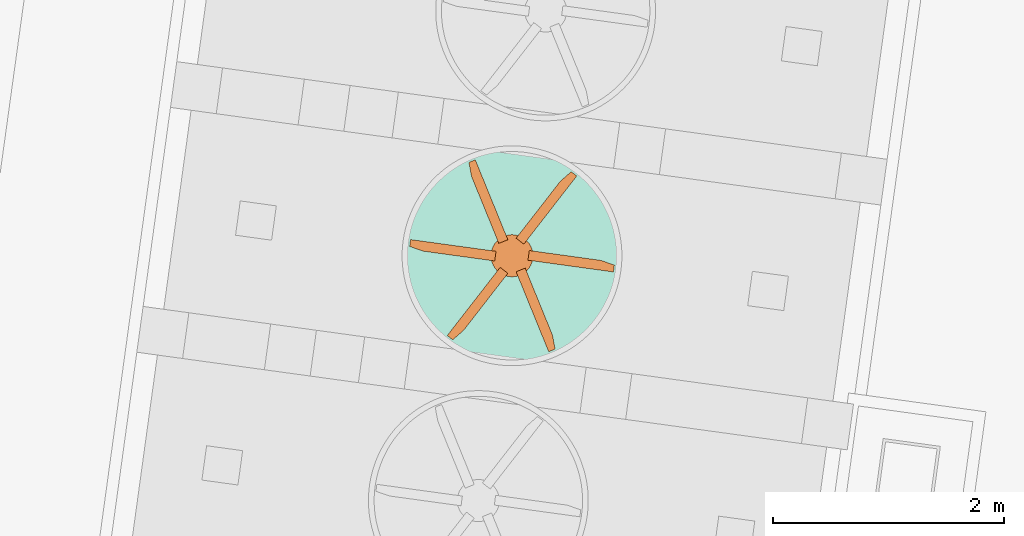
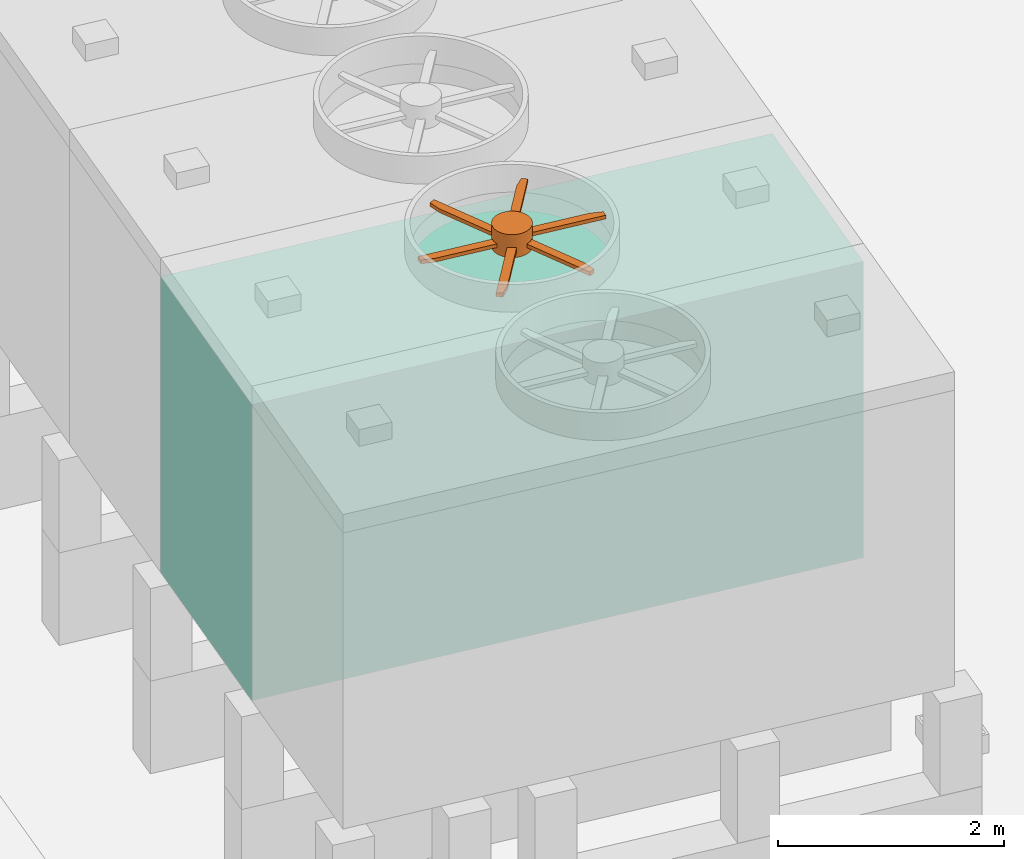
# Not in any storey, part 40 of 75: 7 proxies, plus 1 element that does not belong to this part.
"""IFC4 model written with IfcOpenShell, lengths in metres."""

from ifc_helpers import new_model, si_unit, direction, origin_with_axes, place, context, subcontext, project, spatial, triangles, element, aggregate, save


model = new_model("IFC4")

# Units and contexts
model_context = context("Model", 3, precision=1e-05, world=origin_with_axes(), true_north=direction((0.0, 1.0)))
body_context = subcontext(model_context, "Body", "Model", "MODEL_VIEW")
ifc_project = project(units=[si_unit("AREAUNIT", "SQUARE_METRE"), si_unit("VOLUMEUNIT", "CUBIC_METRE"), si_unit("LENGTHUNIT", "METRE")], contexts=[model_context])

# Site
site_placement = place(None, origin_with_axes())
site = spatial("IfcSite", under=ifc_project, at=site_placement, Name="Parcela industrial Jinhong")

# Cooling tower, proxies
cooling_tower_placement = place(site_placement, origin_with_axes())
cooling_tower = element("IfcCoolingTower", 1, at=cooling_tower_placement, inside=site, Name="Torre de refrigeración WT3001C · Envolvente del cuerpo de la torre", ObjectType="Envolvente de equipo", PredefinedType="USERDEFINED", context=body_context, shape_type="Tessellation", body=[
    triangles([(41.948887, 44.224235, 6.3), (36.44488, 47.141085, 6.3), (36.153404, 45.021028, 6.3), (36.44488, 47.141085, 3.1), (41.948887, 44.224235, 3.1), (36.153404, 45.021028, 3.1), (42.240363, 46.344292, 6.3), (42.240363, 46.344292, 3.1)], [[1, 2, 3], [4, 5, 6], [1, 7, 2], [5, 4, 8], [5, 8, 7], [5, 7, 1], [8, 4, 2], [7, 8, 2], [3, 4, 6], [4, 3, 2], [6, 5, 1], [3, 6, 1]], closed=True),
])
proxy_1_placement = place(cooling_tower_placement, origin_with_axes())
proxy_1 = element("IfcBuildingElementProxy", 2, at=proxy_1_placement, Name="Torre de refrigeración WT3001C · Pala de ventilador 1 · contorno CAD", context=body_context, shape_type="Tessellation", body=[
    triangles([(38.879202, 46.514031, 6.66), (39.082575, 45.789658, 6.66), (39.16132, 45.821748, 6.66), (38.879202, 46.514031, 6.62), (39.16132, 45.821748, 6.62), (39.082575, 45.789658, 6.62), (38.82313, 46.490378, 6.66), (38.850964, 46.502684, 6.66), (38.850964, 46.502684, 6.62), (38.82313, 46.490378, 6.62), (38.846948, 46.367861, 6.66), (38.846948, 46.367861, 6.62)], [[1, 2, 3], [4, 5, 6], [8, 7, 1], [9, 4, 10], [11, 2, 7], [10, 6, 12], [2, 1, 7], [6, 10, 4], [8, 4, 9], [8, 1, 4], [7, 9, 10], [7, 8, 9], [11, 10, 12], [10, 11, 7], [6, 2, 12], [12, 2, 11], [6, 5, 3], [6, 3, 2], [4, 1, 5], [1, 3, 5]], closed=True),
])
proxy_2_placement = place(cooling_tower_placement, origin_with_axes())
proxy_2 = element("IfcBuildingElementProxy", 3, at=proxy_2_placement, Name="Torre de refrigeración WT3001C · Pala de ventilador 2 · contorno CAD", context=body_context, shape_type="Tessellation", body=[
    triangles([(39.311192, 45.575661, 6.66), (39.232447, 45.543571, 6.66), (39.514564, 44.851288, 6.66), (39.232447, 45.543571, 6.62), (39.311192, 45.575661, 6.62), (39.514564, 44.851288, 6.62), (39.570636, 44.874942, 6.66), (39.542803, 44.862636, 6.66), (39.542803, 44.862636, 6.62), (39.570636, 44.874942, 6.62), (39.54682, 44.997458, 6.66), (39.54682, 44.997458, 6.62)], [[1, 2, 3], [4, 5, 6], [8, 7, 3], [9, 6, 10], [11, 1, 7], [10, 5, 12], [1, 3, 7], [5, 10, 6], [8, 6, 9], [8, 3, 6], [7, 9, 10], [7, 8, 9], [11, 10, 12], [10, 11, 7], [5, 1, 12], [12, 1, 11], [5, 4, 2], [5, 2, 1], [3, 4, 6], [4, 3, 2]], closed=True),
])
proxy_3_placement = place(cooling_tower_placement, origin_with_axes())
proxy_3 = element("IfcBuildingElementProxy", 4, at=proxy_3_placement, Name="Torre de refrigeración WT3001C · Pala de ventilador 3 · contorno CAD", context=body_context, shape_type="Tessellation", body=[
    triangles([(39.161374, 45.530166, 6.66), (39.094211, 45.582317, 6.66), (38.635735, 44.991854, 6.66), (39.094211, 45.582317, 6.62), (39.161374, 45.530166, 6.62), (38.635735, 44.991854, 6.62), (38.684256, 44.955121, 6.66), (38.659681, 44.973073, 6.66), (38.659681, 44.973073, 6.62), (38.684256, 44.955121, 6.62), (38.77845, 45.037006, 6.66), (38.77845, 45.037006, 6.62)], [[1, 2, 3], [4, 5, 6], [8, 7, 3], [9, 6, 10], [11, 1, 7], [10, 5, 12], [1, 3, 7], [5, 10, 6], [8, 6, 9], [8, 3, 6], [7, 9, 10], [7, 8, 9], [11, 10, 12], [10, 11, 7], [5, 1, 12], [12, 1, 11], [5, 4, 2], [5, 2, 1], [3, 4, 6], [4, 3, 2]], closed=True),
])
proxy_4_placement = place(cooling_tower_placement, origin_with_axes())
proxy_4 = element("IfcBuildingElementProxy", 5, at=proxy_4_placement, Name="Torre de refrigeración WT3001C · Pala de ventilador 4 · contorno CAD", context=body_context, shape_type="Tessellation", body=[
    triangles([(39.758031, 46.373466, 6.66), (39.232393, 45.835153, 6.66), (39.299556, 45.783003, 6.66), (39.758031, 46.373466, 6.62), (39.299556, 45.783003, 6.62), (39.232393, 45.835153, 6.62), (39.709511, 46.410198, 6.66), (39.734086, 46.392247, 6.66), (39.734086, 46.392247, 6.62), (39.709511, 46.410198, 6.62), (39.615317, 46.328314, 6.66), (39.615317, 46.328314, 6.62)], [[1, 2, 3], [4, 5, 6], [8, 7, 1], [9, 4, 10], [11, 2, 7], [10, 6, 12], [2, 1, 7], [6, 10, 4], [8, 4, 9], [8, 1, 4], [7, 9, 10], [7, 8, 9], [11, 10, 12], [10, 11, 7], [6, 2, 12], [12, 2, 11], [6, 5, 3], [6, 3, 2], [4, 1, 5], [1, 3, 5]], closed=True),
])
proxy_5_placement = place(cooling_tower_placement, origin_with_axes())
proxy_5 = element("IfcBuildingElementProxy", 6, at=proxy_5_placement, Name="Torre de refrigeración WT3001C · Pala de ventilador 5 · contorno CAD", context=body_context, shape_type="Tessellation", body=[
    triangles([(40.075713, 45.542094, 6.66), (39.346701, 45.728155, 6.66), (39.335119, 45.643914, 6.66), (39.346701, 45.728155, 6.62), (40.075713, 45.542094, 6.62), (39.335119, 45.643914, 6.62), (40.083264, 45.602481, 6.66), (40.080005, 45.572223, 6.66), (40.080005, 45.572223, 6.62), (40.083264, 45.602481, 6.62), (39.965253, 45.643113, 6.66), (39.965253, 45.643113, 6.62)], [[1, 2, 3], [4, 5, 6], [8, 7, 1], [9, 5, 10], [11, 2, 7], [10, 4, 12], [7, 2, 1], [5, 4, 10], [5, 9, 8], [5, 8, 1], [7, 9, 10], [7, 8, 9], [11, 10, 12], [10, 11, 7], [12, 4, 2], [11, 12, 2], [3, 4, 6], [4, 3, 2], [6, 5, 1], [3, 6, 1]], closed=True),
])
proxy_6_placement = place(cooling_tower_placement, origin_with_axes())
proxy_6 = element("IfcBuildingElementProxy", 7, at=proxy_6_placement, Name="Torre de refrigeración WT3001C · Pala de ventilador 6 · contorno CAD", context=body_context, shape_type="Tessellation", body=[
    triangles([(39.058647, 45.721405, 6.66), (38.318054, 45.823226, 6.66), (39.047066, 45.637165, 6.66), (38.318054, 45.823226, 6.62), (39.058647, 45.721405, 6.62), (39.047066, 45.637165, 6.62), (38.310503, 45.762839, 6.66), (38.313762, 45.793097, 6.66), (38.313762, 45.793097, 6.62), (38.310503, 45.762839, 6.62), (38.428514, 45.722207, 6.66), (38.428514, 45.722207, 6.62)], [[1, 2, 3], [4, 5, 6], [8, 7, 2], [9, 4, 10], [11, 3, 7], [10, 6, 12], [7, 3, 2], [10, 4, 6], [4, 9, 8], [4, 8, 2], [7, 9, 10], [7, 8, 9], [11, 10, 12], [10, 11, 7], [12, 6, 3], [11, 12, 3], [5, 1, 6], [1, 3, 6], [5, 4, 2], [5, 2, 1]], closed=True),
])
proxy_7_placement = place(cooling_tower_placement, origin_with_axes())
proxy_7 = element("IfcBuildingElementProxy", 8, at=proxy_7_placement, Name="Torre de refrigeración WT3001C · Envolvente del buje del ventilador", context=body_context, shape_type="Tessellation", body=[
    triangles([(39.377381, 45.657844, 6.8), (39.374079, 45.640272, 6.8), (39.375946, 45.649017, 6.8), (39.374079, 45.640272, 6.55), (39.377381, 45.657844, 6.55), (39.375946, 45.649017, 6.55), (39.378944, 45.675655, 6.8), (39.378381, 45.666731, 6.8), (39.378381, 45.666731, 6.55), (39.378944, 45.675655, 6.55), (39.378754, 45.693534, 6.8), (39.379068, 45.684597, 6.8), (39.379068, 45.684597, 6.55), (39.378754, 45.693534, 6.55), (39.376812, 45.711308, 6.8), (39.378001, 45.702445, 6.8), (39.378001, 45.702445, 6.55), (39.376812, 45.711308, 6.55), (39.373138, 45.728806, 6.8), (39.37519, 45.720102, 6.8), (39.37519, 45.720102, 6.55), (39.373138, 45.728806, 6.55), (39.367766, 45.74586, 6.8), (39.370661, 45.737399, 6.8), (39.370661, 45.737399, 6.55), (39.367766, 45.74586, 6.55), (39.360748, 45.762305, 6.8), (39.364459, 45.754169, 6.8), (39.364459, 45.754169, 6.55), (39.360748, 45.762305, 6.55), (39.352153, 45.777983, 6.8), (39.356643, 45.77025, 6.8), (39.356643, 45.77025, 6.55), (39.352153, 45.777983, 6.55), (39.342062, 45.792743, 6.8), (39.347288, 45.785487, 6.8), (39.347288, 45.785487, 6.55), (39.342062, 45.792743, 6.55), (39.330573, 45.806443, 6.8), (39.336485, 45.799734, 6.8), (39.336485, 45.799734, 6.55), (39.330573, 45.806443, 6.55), (39.317796, 45.818951, 6.8), (39.324338, 45.812854, 6.8), (39.324338, 45.812854, 6.55), (39.317796, 45.818951, 6.55), (39.303855, 45.830146, 6.8), (39.310963, 45.82472, 6.8), (39.310963, 45.82472, 6.55), (39.303855, 45.830146, 6.55), (39.288884, 45.839921, 6.8), (39.296489, 45.835217, 6.8), (39.296489, 45.835217, 6.55), (39.288884, 45.839921, 6.55), (39.273026, 45.848181, 6.8), (39.281056, 45.844246, 6.8), (39.281056, 45.844246, 6.55), (39.273026, 45.848181, 6.55), (39.256436, 45.854848, 6.8), (39.264813, 45.851718, 6.8), (39.264813, 45.851718, 6.55), (39.256436, 45.854848, 6.55), (39.239272, 45.859856, 6.8), (39.247915, 45.857562, 6.8), (39.247915, 45.857562, 6.55), (39.239272, 45.859856, 6.55), (39.221699, 45.863157, 6.8), (39.230526, 45.861722, 6.8), (39.230526, 45.861722, 6.55), (39.221699, 45.863157, 6.55), (39.203888, 45.86472, 6.8), (39.212813, 45.864157, 6.8), (39.212813, 45.864157, 6.55), (39.203888, 45.86472, 6.55), (39.194946, 45.864845, 6.8), (39.186009, 45.86453, 6.8), (39.186009, 45.86453, 6.55), (39.194946, 45.864845, 6.55), (39.168235, 45.862589, 6.8), (39.177098, 45.863777, 6.8), (39.177098, 45.863777, 6.55), (39.168235, 45.862589, 6.55), (39.150737, 45.858914, 6.8), (39.159441, 45.860966, 6.8), (39.159441, 45.860966, 6.55), (39.150737, 45.858914, 6.55), (39.133683, 45.853542, 6.8), (39.142144, 45.856437, 6.8), (39.142144, 45.856437, 6.55), (39.133683, 45.853542, 6.55), (39.117238, 45.846525, 6.8), (39.125375, 45.850235, 6.8), (39.125375, 45.850235, 6.55), (39.117238, 45.846525, 6.55), (39.10156, 45.837929, 6.8), (39.109294, 45.842419, 6.8), (39.109294, 45.842419, 6.55), (39.10156, 45.837929, 6.55), (39.0868, 45.827838, 6.8), (39.094056, 45.833065, 6.8), (39.094056, 45.833065, 6.55), (39.0868, 45.827838, 6.55), (39.0731, 45.816349, 6.8), (39.079809, 45.822262, 6.8), (39.079809, 45.822262, 6.55), (39.0731, 45.816349, 6.55), (39.060592, 45.803572, 6.8), (39.066689, 45.810114, 6.8), (39.066689, 45.810114, 6.55), (39.060592, 45.803572, 6.55), (39.049397, 45.789631, 6.8), (39.054824, 45.796739, 6.8), (39.054824, 45.796739, 6.55), (39.049397, 45.789631, 6.55), (39.039622, 45.77466, 6.8), (39.044326, 45.782265, 6.8), (39.044326, 45.782265, 6.55), (39.039622, 45.77466, 6.55), (39.031362, 45.758803, 6.8), (39.035298, 45.766833, 6.8), (39.035298, 45.766833, 6.55), (39.031362, 45.758803, 6.55), (39.024696, 45.742212, 6.8), (39.027825, 45.750589, 6.8), (39.027825, 45.750589, 6.55), (39.024696, 45.742212, 6.55), (39.019688, 45.725048, 6.8), (39.021981, 45.733691, 6.8), (39.021981, 45.733691, 6.55), (39.019688, 45.725048, 6.55), (39.016386, 45.707475, 6.8), (39.017821, 45.716302, 6.8), (39.017821, 45.716302, 6.55), (39.016386, 45.707475, 6.55), (39.014823, 45.689664, 6.8), (39.015386, 45.698589, 6.8), (39.015386, 45.698589, 6.55), (39.014823, 45.689664, 6.55), (39.015013, 45.671785, 6.8), (39.014699, 45.680722, 6.8), (39.014699, 45.680722, 6.55), (39.015013, 45.671785, 6.55), (39.016955, 45.654011, 6.8), (39.015766, 45.662875, 6.8), (39.015766, 45.662875, 6.55), (39.016955, 45.654011, 6.55), (39.020629, 45.636513, 6.8), (39.018577, 45.645217, 6.8), (39.018577, 45.645217, 6.55), (39.020629, 45.636513, 6.55), (39.026001, 45.619459, 6.8), (39.023106, 45.62792, 6.8), (39.023106, 45.62792, 6.55), (39.026001, 45.619459, 6.55), (39.033019, 45.603014, 6.8), (39.029308, 45.611151, 6.8), (39.029308, 45.611151, 6.55), (39.033019, 45.603014, 6.55), (39.041614, 45.587336, 6.8), (39.037124, 45.59507, 6.8), (39.037124, 45.59507, 6.55), (39.041614, 45.587336, 6.55), (39.051705, 45.572576, 6.8), (39.046479, 45.579832, 6.8), (39.046479, 45.579832, 6.55), (39.051705, 45.572576, 6.55), (39.063195, 45.558876, 6.8), (39.057282, 45.565585, 6.8), (39.057282, 45.565585, 6.55), (39.063195, 45.558876, 6.55), (39.075971, 45.546369, 6.8), (39.069429, 45.552466, 6.8), (39.069429, 45.552466, 6.55), (39.075971, 45.546369, 6.55), (39.089912, 45.535173, 6.8), (39.082804, 45.5406, 6.8), (39.082804, 45.5406, 6.55), (39.089912, 45.535173, 6.55), (39.104884, 45.525399, 6.8), (39.097278, 45.530102, 6.8), (39.097278, 45.530102, 6.55), (39.104884, 45.525399, 6.55), (39.120741, 45.517138, 6.8), (39.112711, 45.521074, 6.8), (39.112711, 45.521074, 6.55), (39.120741, 45.517138, 6.55), (39.137331, 45.510472, 6.8), (39.128954, 45.513602, 6.8), (39.128954, 45.513602, 6.55), (39.137331, 45.510472, 6.55), (39.154496, 45.505464, 6.8), (39.145852, 45.507757, 6.8), (39.145852, 45.507757, 6.55), (39.154496, 45.505464, 6.55), (39.172068, 45.502163, 6.8), (39.163241, 45.503598, 6.8), (39.163241, 45.503598, 6.55), (39.172068, 45.502163, 6.55), (39.189879, 45.500599, 6.8), (39.180954, 45.501162, 6.8), (39.180954, 45.501162, 6.55), (39.189879, 45.500599, 6.55), (39.207758, 45.500789, 6.8), (39.198821, 45.500475, 6.8), (39.198821, 45.500475, 6.55), (39.207758, 45.500789, 6.55), (39.225532, 45.502731, 6.8), (39.216669, 45.501542, 6.8), (39.216669, 45.501542, 6.55), (39.225532, 45.502731, 6.55), (39.24303, 45.506405, 6.8), (39.234326, 45.504353, 6.8), (39.234326, 45.504353, 6.55), (39.24303, 45.506405, 6.55), (39.260084, 45.511777, 6.8), (39.251623, 45.508882, 6.8), (39.251623, 45.508882, 6.55), (39.260084, 45.511777, 6.55), (39.276529, 45.518795, 6.8), (39.268393, 45.515084, 6.8), (39.268393, 45.515084, 6.55), (39.276529, 45.518795, 6.55), (39.292207, 45.527391, 6.8), (39.284473, 45.5229, 6.8), (39.284473, 45.5229, 6.55), (39.292207, 45.527391, 6.55), (39.306967, 45.537482, 6.8), (39.299711, 45.532255, 6.8), (39.299711, 45.532255, 6.55), (39.306967, 45.537482, 6.55), (39.320667, 45.548971, 6.8), (39.313958, 45.543058, 6.8), (39.313958, 45.543058, 6.55), (39.320667, 45.548971, 6.55), (39.333175, 45.561747, 6.8), (39.327078, 45.555206, 6.8), (39.327078, 45.555206, 6.55), (39.333175, 45.561747, 6.55), (39.34437, 45.575688, 6.8), (39.338943, 45.568581, 6.8), (39.338943, 45.568581, 6.55), (39.34437, 45.575688, 6.55), (39.354145, 45.59066, 6.8), (39.349441, 45.583054, 6.8), (39.349441, 45.583054, 6.55), (39.354145, 45.59066, 6.55), (39.362405, 45.606517, 6.8), (39.35847, 45.598487, 6.8), (39.35847, 45.598487, 6.55), (39.362405, 45.606517, 6.55), (39.369071, 45.623108, 6.8), (39.365942, 45.614731, 6.8), (39.365942, 45.614731, 6.55), (39.369071, 45.623108, 6.55), (39.371786, 45.631628, 6.8), (39.371786, 45.631628, 6.55)], [[1, 2, 3], [4, 5, 6], [8, 7, 1], [9, 5, 10], [12, 11, 7], [13, 10, 14], [16, 15, 11], [17, 14, 18], [20, 19, 15], [21, 18, 22], [24, 23, 19], [25, 22, 26], [28, 27, 23], [29, 26, 30], [32, 31, 27], [33, 30, 34], [36, 35, 31], [37, 34, 38], [40, 39, 35], [41, 38, 42], [44, 43, 39], [45, 42, 46], [48, 47, 43], [49, 46, 50], [52, 51, 47], [53, 50, 54], [56, 55, 51], [57, 54, 58], [60, 59, 55], [61, 58, 62], [64, 63, 59], [65, 62, 66], [68, 67, 63], [69, 66, 70], [72, 71, 67], [73, 70, 74], [71, 75, 76], [77, 78, 74], [80, 79, 76], [81, 77, 82], [84, 83, 79], [85, 82, 86], [88, 87, 83], [89, 86, 90], [92, 91, 87], [93, 90, 94], [96, 95, 91], [97, 94, 98], [100, 99, 95], [101, 98, 102], [104, 103, 99], [105, 102, 106], [108, 107, 103], [109, 106, 110], [112, 111, 107], [113, 110, 114], [116, 115, 111], [117, 114, 118], [120, 119, 115], [121, 118, 122], [124, 123, 119], [125, 122, 126], [128, 127, 123], [129, 126, 130], [132, 131, 127], [133, 130, 134], [136, 135, 131], [137, 134, 138], [140, 139, 135], [141, 138, 142], [144, 143, 139], [145, 142, 146], [148, 147, 143], [149, 146, 150], [152, 151, 147], [153, 150, 154], [156, 155, 151], [157, 154, 158], [160, 159, 155], [161, 158, 162], [164, 163, 159], [165, 162, 166], [168, 167, 163], [169, 166, 170], [172, 171, 167], [173, 170, 174], [176, 175, 171], [177, 174, 178], [180, 179, 175], [181, 178, 182], [184, 183, 179], [185, 182, 186], [188, 187, 183], [189, 186, 190], [192, 191, 187], [193, 190, 194], [196, 195, 191], [197, 194, 198], [200, 199, 195], [201, 198, 202], [204, 203, 199], [205, 202, 206], [208, 207, 203], [209, 206, 210], [212, 211, 207], [213, 210, 214], [216, 215, 211], [217, 214, 218], [220, 219, 215], [221, 218, 222], [224, 223, 219], [225, 222, 226], [228, 227, 223], [229, 226, 230], [232, 231, 227], [233, 230, 234], [236, 235, 231], [237, 234, 238], [240, 239, 235], [241, 238, 242], [244, 243, 239], [245, 242, 246], [248, 247, 243], [249, 246, 250], [252, 251, 247], [253, 250, 254], [255, 2, 251], [254, 4, 256], [7, 2, 1], [5, 4, 10], [11, 15, 7], [14, 10, 18], [19, 23, 15], [22, 18, 26], [27, 31, 23], [30, 26, 34], [35, 39, 31], [38, 34, 42], [43, 47, 39], [46, 42, 50], [51, 55, 47], [54, 50, 58], [59, 63, 55], [62, 58, 66], [67, 71, 63], [70, 66, 74], [71, 76, 79], [82, 77, 74], [83, 87, 79], [86, 82, 90], [91, 95, 87], [94, 90, 98], [99, 103, 95], [102, 98, 106], [107, 111, 103], [110, 106, 114], [115, 119, 111], [118, 114, 122], [123, 127, 119], [126, 122, 130], [131, 135, 127], [134, 130, 138], [139, 143, 135], [142, 138, 146], [147, 151, 143], [150, 146, 154], [155, 159, 151], [158, 154, 162], [163, 167, 159], [166, 162, 170], [171, 175, 167], [174, 170, 178], [179, 183, 175], [182, 178, 186], [187, 191, 183], [190, 186, 194], [195, 199, 191], [198, 194, 202], [203, 207, 199], [206, 202, 210], [211, 215, 207], [214, 210, 218], [219, 223, 215], [222, 218, 226], [227, 231, 223], [230, 226, 234], [235, 239, 231], [238, 234, 242], [243, 247, 239], [246, 242, 250], [251, 2, 247], [250, 4, 254], [7, 15, 2], [10, 4, 18], [23, 31, 15], [26, 18, 34], [39, 47, 31], [42, 34, 50], [55, 63, 47], [58, 50, 66], [63, 71, 79], [82, 74, 66], [87, 95, 79], [90, 82, 98], [103, 111, 95], [106, 98, 114], [119, 127, 111], [122, 114, 130], [135, 143, 127], [138, 130, 146], [151, 159, 143], [154, 146, 162], [167, 175, 159], [170, 162, 178], [183, 191, 175], [186, 178, 194], [199, 207, 191], [202, 194, 210], [215, 223, 207], [218, 210, 226], [231, 239, 223], [234, 226, 242], [247, 2, 239], [242, 4, 250], [15, 31, 2], [18, 4, 34], [47, 63, 31], [50, 34, 66], [63, 79, 95], [98, 82, 66], [111, 127, 95], [114, 98, 130], [143, 159, 127], [146, 130, 162], [175, 191, 159], [178, 162, 194], [207, 223, 191], [210, 194, 226], [239, 2, 223], [226, 4, 242], [2, 31, 63], [66, 34, 4], [63, 95, 127], [130, 98, 66], [127, 159, 191], [194, 162, 130], [223, 2, 191], [194, 4, 226], [2, 63, 127], [130, 66, 4], [191, 2, 127], [130, 4, 194], [5, 9, 8], [5, 8, 1], [7, 9, 10], [7, 8, 9], [10, 13, 12], [10, 12, 7], [11, 13, 14], [11, 12, 13], [14, 17, 16], [14, 16, 11], [15, 17, 18], [15, 16, 17], [18, 21, 20], [18, 20, 15], [19, 21, 22], [19, 20, 21], [22, 25, 24], [22, 24, 19], [23, 25, 26], [23, 24, 25], [26, 29, 28], [26, 28, 23], [27, 29, 30], [27, 28, 29], [30, 33, 32], [30, 32, 27], [31, 33, 34], [31, 32, 33], [34, 37, 36], [34, 36, 31], [35, 37, 38], [35, 36, 37], [38, 41, 40], [38, 40, 35], [39, 41, 42], [39, 40, 41], [42, 45, 44], [42, 44, 39], [43, 45, 46], [43, 44, 45], [48, 46, 49], [48, 43, 46], [47, 49, 50], [47, 48, 49], [52, 50, 53], [52, 47, 50], [51, 53, 54], [51, 52, 53], [56, 54, 57], [56, 51, 54], [55, 57, 58], [55, 56, 57], [60, 58, 61], [60, 55, 58], [59, 61, 62], [59, 60, 61], [64, 62, 65], [64, 59, 62], [63, 65, 66], [63, 64, 65], [68, 66, 69], [68, 63, 66], [67, 69, 70], [67, 68, 69], [72, 70, 73], [72, 67, 70], [71, 73, 74], [71, 72, 73], [75, 74, 78], [75, 71, 74], [78, 77, 76], [78, 76, 75], [80, 77, 81], [80, 76, 77], [79, 81, 82], [79, 80, 81], [84, 82, 85], [84, 79, 82], [83, 85, 86], [83, 84, 85], [88, 86, 89], [88, 83, 86], [87, 89, 90], [87, 88, 89], [92, 90, 93], [92, 87, 90], [91, 93, 94], [91, 92, 93], [96, 94, 97], [96, 91, 94], [95, 97, 98], [95, 96, 97], [100, 98, 101], [100, 95, 98], [99, 101, 102], [99, 100, 101], [104, 102, 105], [104, 99, 102], [103, 105, 106], [103, 104, 105], [108, 106, 109], [108, 103, 106], [107, 109, 110], [107, 108, 109], [110, 113, 112], [110, 112, 107], [111, 113, 114], [111, 112, 113], [114, 117, 116], [114, 116, 111], [115, 117, 118], [115, 116, 117], [118, 121, 120], [118, 120, 115], [119, 121, 122], [119, 120, 121], [122, 125, 124], [122, 124, 119], [123, 125, 126], [123, 124, 125], [126, 129, 128], [126, 128, 123], [127, 129, 130], [127, 128, 129], [130, 133, 132], [130, 132, 127], [131, 133, 134], [131, 132, 133], [134, 137, 136], [134, 136, 131], [135, 137, 138], [135, 136, 137], [138, 141, 140], [138, 140, 135], [139, 141, 142], [139, 140, 141], [142, 145, 144], [142, 144, 139], [143, 145, 146], [143, 144, 145], [146, 149, 148], [146, 148, 143], [147, 149, 150], [147, 148, 149], [150, 153, 152], [150, 152, 147], [151, 153, 154], [151, 152, 153], [154, 157, 156], [154, 156, 151], [155, 157, 158], [155, 156, 157], [158, 161, 160], [158, 160, 155], [159, 161, 162], [159, 160, 161], [162, 165, 164], [162, 164, 159], [163, 165, 166], [163, 164, 165], [166, 169, 168], [166, 168, 163], [167, 169, 170], [167, 168, 169], [170, 173, 172], [170, 172, 167], [171, 173, 174], [171, 172, 173], [176, 174, 177], [176, 171, 174], [175, 177, 178], [175, 176, 177], [180, 178, 181], [180, 175, 178], [179, 181, 182], [179, 180, 181], [184, 182, 185], [184, 179, 182], [183, 185, 186], [183, 184, 185], [188, 186, 189], [188, 183, 186], [187, 189, 190], [187, 188, 189], [192, 190, 193], [192, 187, 190], [191, 193, 194], [191, 192, 193], [196, 194, 197], [196, 191, 194], [195, 197, 198], [195, 196, 197], [200, 198, 201], [200, 195, 198], [199, 201, 202], [199, 200, 201], [204, 202, 205], [204, 199, 202], [203, 205, 206], [203, 204, 205], [208, 206, 209], [208, 203, 206], [207, 209, 210], [207, 208, 209], [212, 210, 213], [212, 207, 210], [211, 213, 214], [211, 212, 213], [216, 214, 217], [216, 211, 214], [215, 217, 218], [215, 216, 217], [220, 218, 221], [220, 215, 218], [219, 221, 222], [219, 220, 221], [224, 222, 225], [224, 219, 222], [223, 225, 226], [223, 224, 225], [228, 226, 229], [228, 223, 226], [227, 229, 230], [227, 228, 229], [232, 230, 233], [232, 227, 230], [231, 233, 234], [231, 232, 233], [236, 234, 237], [236, 231, 234], [235, 237, 238], [235, 236, 237], [238, 241, 240], [238, 240, 235], [239, 241, 242], [239, 240, 241], [242, 245, 244], [242, 244, 239], [243, 245, 246], [243, 244, 245], [246, 249, 248], [246, 248, 243], [247, 249, 250], [247, 248, 249], [250, 253, 252], [250, 252, 247], [251, 253, 254], [251, 252, 253], [254, 256, 255], [254, 255, 251], [256, 4, 2], [256, 2, 255], [3, 4, 6], [4, 3, 2], [6, 5, 1], [1, 3, 6]], closed=True),
])
aggregate(cooling_tower, [proxy_1, proxy_2, proxy_3, proxy_4, proxy_5, proxy_6, proxy_7])

save(model, "model.ifc")
